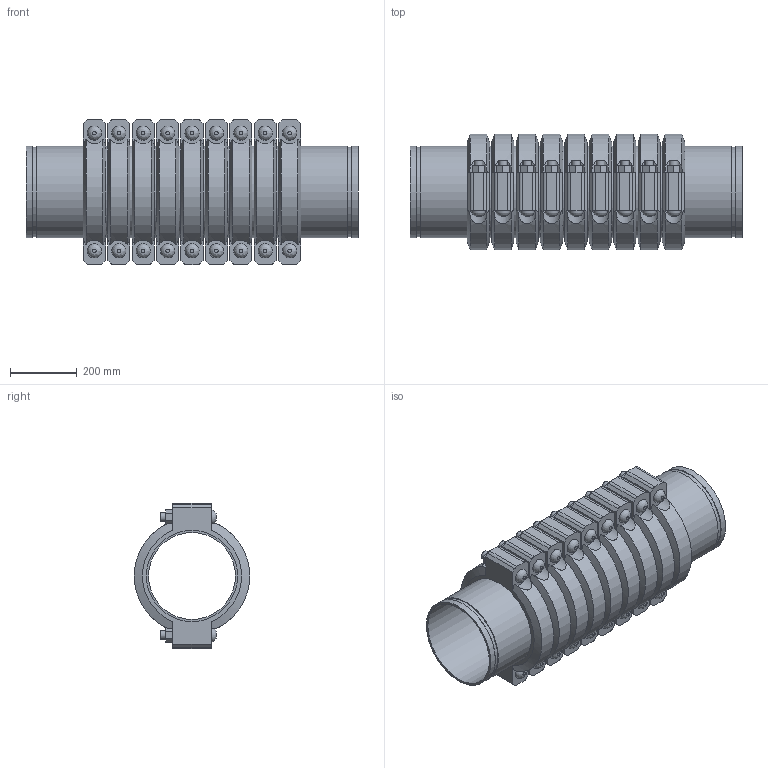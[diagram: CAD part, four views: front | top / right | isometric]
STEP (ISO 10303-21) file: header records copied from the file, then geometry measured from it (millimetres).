
FILE_DESCRIPTION(/* description */ ('VIC SS EXPANSION JOINT 9 COUPLINGS NEUTRAL STYLE 155P (OGS) (POTABLE WATER) ','CAx-IF Rec.Pracs.---Representation and Presentation of Product Manufacturing Information (PMI)---4.0---2014-10-13'),/* implementation_level */ '2;1');
FILE_NAME(/* name */ 'C:\Users\kkamble\AppData\Roaming\Autodesk\ApplicationPlugins\Victaulic.Temp\A561\Victaulic_SS_Expansion Joint_Neutral_9 Couplings_Style 155P (OGS)-Potable Water_9 Coup_Neut_10 (250).stp',/* time_stamp */ '2021-07-16T16:40:16+05:00',/* author */ ('kkamble'),/* organization */ ('Victaulic'),/* preprocessor_version */ 'ST-DEVELOPER v17.2',/* originating_system */ 'Autodesk Inventor 2019',/* authorisation */ '');
FILE_SCHEMA (('AP242_MANAGED_MODEL_BASED_3D_ENGINEERING_MIM_LF { 1 0 10303 442 1 1 4 }'));
Length unit declared in the file: inch
Products named in the file (4): 155P-10.0; Nipple-10.0; Nipple-10.0_1; 077-10.0
Assembly tree (19 placements, depth 2):
  155P-10.0
    Nipple-10.0  x2
    Nipple-10.0_1  x8
    077-10.0  x9
Bounding box: 993.9 x 344.9 x 435.1 mm (x, y, z)
Volume: 31027586.5 mm3; surface area: 4323057.7 mm2
Topology: 19 solids, 37 shells, 669 faces, 1605 edges, 1122 vertices
Faces by surface type: plane 384, cylinder 231, cone 36, bspline 18
Full cylindrical faces by diameter (mm): 25.4 x36, 27.432 x18, 260.35 x10, 264.16 x9, 268.275 x20, 273.05 x48
Entity records: 3137 total; most frequent: CARTESIAN_POINT 683, DIRECTION 493, ORIENTED_EDGE 410, EDGE_CURVE 205, AXIS2_PLACEMENT_3D 202, VERTEX_POINT 146, EDGE_LOOP 111, CIRCLE 96
